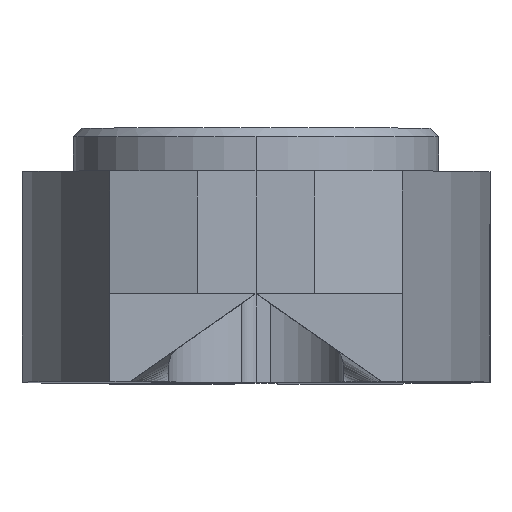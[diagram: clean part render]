
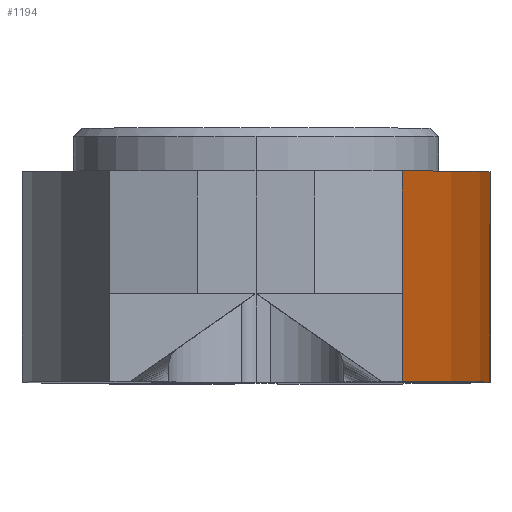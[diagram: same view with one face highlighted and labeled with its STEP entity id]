
A CAD part, top view. The second image highlights one B-rep face of the part: STEP entity #1194.
In plain terms, the highlighted cylindrical face has radius 30 mm (diameter 60 mm), a partial arc.
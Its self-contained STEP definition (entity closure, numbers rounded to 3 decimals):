
#93 = CARTESIAN_POINT ( 'NONE',  ( -22., 0., 10.119 ) ) ;
#369 = CIRCLE ( 'NONE', #1725, 30. ) ;
#410 = AXIS2_PLACEMENT_3D ( 'NONE', #1053, #905, #749 ) ;
#428 = DIRECTION ( 'NONE',  ( 1., 0., 0. ) ) ;
#503 = ORIENTED_EDGE ( 'NONE', *, *, #4048, .T. ) ;
#510 = EDGE_CURVE ( 'NONE', #676, #2307, #4049, .T. ) ;
#540 = VECTOR ( 'NONE', #3497, 1000. ) ;
#676 = VERTEX_POINT ( 'NONE', #3710 ) ;
#749 = DIRECTION ( 'NONE',  ( 1., 0., 0. ) ) ;
#772 = CARTESIAN_POINT ( 'NONE',  ( 5., 3.6, 23.196 ) ) ;
#792 = CARTESIAN_POINT ( 'NONE',  ( -22., 7.2, 10.119 ) ) ;
#905 = DIRECTION ( 'NONE',  ( 0., -1., 0. ) ) ;
#1036 = FACE_OUTER_BOUND ( 'NONE', #2553, .T. ) ;
#1053 = CARTESIAN_POINT ( 'NONE',  ( -22., 7.2, 10.119 ) ) ;
#1111 = DIRECTION ( 'NONE',  ( 1., 0., 0. ) ) ;
#1194 = ADVANCED_FACE ( 'NONE', ( #1036 ), #1791, .T. ) ;
#1228 = ORIENTED_EDGE ( 'NONE', *, *, #3553, .T. ) ;
#1630 = LINE ( 'NONE', #3771, #4174 ) ;
#1723 = ORIENTED_EDGE ( 'NONE', *, *, #510, .F. ) ;
#1725 = AXIS2_PLACEMENT_3D ( 'NONE', #792, #3094, #1111 ) ;
#1738 = VECTOR ( 'NONE', #2203, 1000. ) ;
#1791 = CYLINDRICAL_SURFACE ( 'NONE', #410, 30. ) ;
#1967 = EDGE_CURVE ( 'NONE', #2141, #2672, #3526, .T. ) ;
#2141 = VERTEX_POINT ( 'NONE', #3407 ) ;
#2203 = DIRECTION ( 'NONE',  ( 0., -1., 0. ) ) ;
#2307 = VERTEX_POINT ( 'NONE', #2693 ) ;
#2379 = DIRECTION ( 'NONE',  ( 0., 1., 0. ) ) ;
#2553 = EDGE_LOOP ( 'NONE', ( #503, #1228, #1723, #2706, #3837 ) ) ;
#2672 = VERTEX_POINT ( 'NONE', #3911 ) ;
#2693 = CARTESIAN_POINT ( 'NONE',  ( 8., 0., 10.119 ) ) ;
#2706 = ORIENTED_EDGE ( 'NONE', *, *, #3605, .F. ) ;
#2885 = CARTESIAN_POINT ( 'NONE',  ( 5., 0., 23.196 ) ) ;
#3094 = DIRECTION ( 'NONE',  ( 0., 1., 0. ) ) ;
#3306 = CIRCLE ( 'NONE', #4052, 30. ) ;
#3407 = CARTESIAN_POINT ( 'NONE',  ( 5., 7.2, 23.196 ) ) ;
#3497 = DIRECTION ( 'NONE',  ( 0., -1., 0. ) ) ;
#3526 = LINE ( 'NONE', #772, #1738 ) ;
#3553 = EDGE_CURVE ( 'NONE', #4190, #2307, #3306, .T. ) ;
#3605 = EDGE_CURVE ( 'NONE', #2141, #676, #369, .T. ) ;
#3710 = CARTESIAN_POINT ( 'NONE',  ( 8., 7.2, 10.119 ) ) ;
#3771 = CARTESIAN_POINT ( 'NONE',  ( 5., 3.6, 23.196 ) ) ;
#3837 = ORIENTED_EDGE ( 'NONE', *, *, #1967, .T. ) ;
#3911 = CARTESIAN_POINT ( 'NONE',  ( 5., 3., 23.196 ) ) ;
#4048 = EDGE_CURVE ( 'NONE', #2672, #4190, #1630, .T. ) ;
#4049 = LINE ( 'NONE', #4182, #540 ) ;
#4052 = AXIS2_PLACEMENT_3D ( 'NONE', #93, #2379, #428 ) ;
#4098 = DIRECTION ( 'NONE',  ( 0., -1., 0. ) ) ;
#4174 = VECTOR ( 'NONE', #4098, 1000. ) ;
#4182 = CARTESIAN_POINT ( 'NONE',  ( 8., 3.6, 10.119 ) ) ;
#4190 = VERTEX_POINT ( 'NONE', #2885 ) ;
